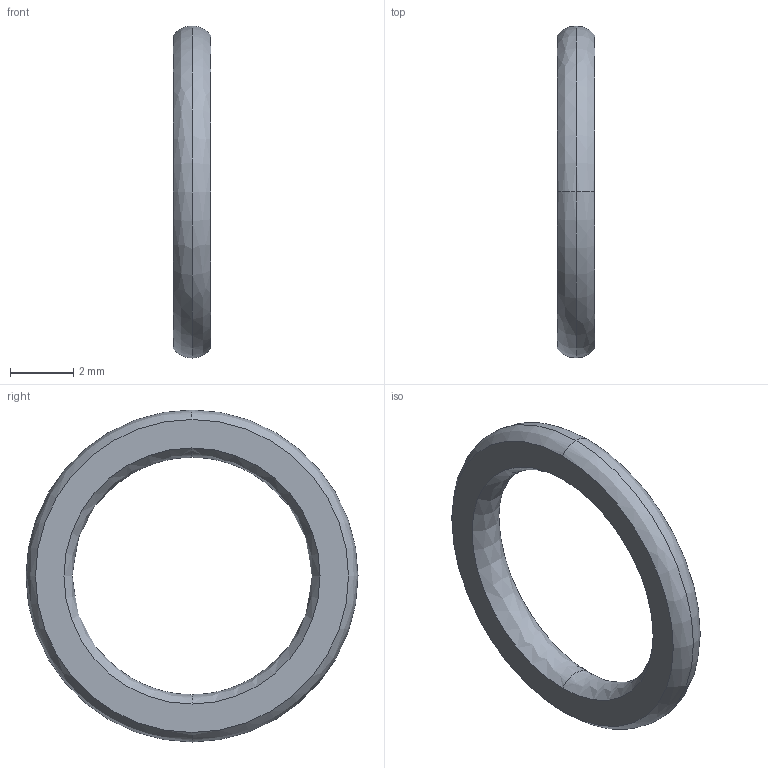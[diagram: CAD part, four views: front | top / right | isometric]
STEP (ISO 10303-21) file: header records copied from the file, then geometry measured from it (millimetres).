
FILE_DESCRIPTION (( 'STEP AP203' ), '1' );
FILE_NAME ('025 Joint Torique.STEP', '2021-10-27T18:26:07', ( '' ), ( '' ), 'SwSTEP 2.0', 'SolidWorks 2019', '' );
FILE_SCHEMA (( 'CONFIG_CONTROL_DESIGN' ));
Length unit declared in the file: millimetre
Products named in the file (1): 025 Joint Torique
Bounding box: 1.2 x 10.5 x 10.5 mm (x, y, z)
Volume: 44.8 mm3; surface area: 129.5 mm2
Topology: 1 solids, 1 shells, 8 faces, 16 edges, 10 vertices
Faces by surface type: bspline 6, plane 2
Entity records: 367 total; most frequent: CARTESIAN_POINT 125, DIRECTION 38, ORIENTED_EDGE 32, AXIS2_PLACEMENT_3D 19, EDGE_CURVE 16, CIRCLE 16, VERTEX_POINT 10, EDGE_LOOP 10
